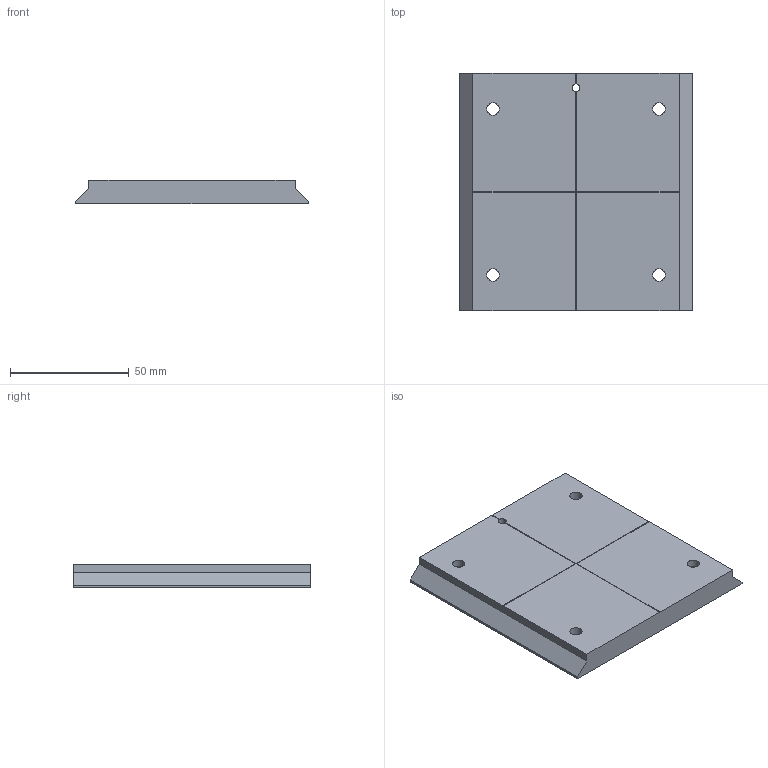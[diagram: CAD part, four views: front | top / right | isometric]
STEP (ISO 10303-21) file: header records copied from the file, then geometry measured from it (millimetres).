
FILE_DESCRIPTION (( 'STEP AP203' ), '1' );
FILE_NAME ('QCS-G100.STEP', '2024-03-20T06:18:48', ( '微软用户' ), ( '微软中国' ), 'SwSTEP 2.0', 'SolidWorks 2018', '' );
FILE_SCHEMA (( 'CONFIG_CONTROL_DESIGN' ));
Length unit declared in the file: millimetre
Products named in the file (1): QCS-G100
Bounding box: 98 x 100 x 10 mm (x, y, z)
Volume: 88696 mm3; surface area: 23763 mm2
Topology: 1 solids, 1 shells, 45 faces, 115 edges, 75 vertices
Faces by surface type: plane 27, cylinder 18
Entity records: 1464 total; most frequent: CARTESIAN_POINT 248, DIRECTION 241, ORIENTED_EDGE 230, EDGE_CURVE 115, AXIS2_PLACEMENT_3D 84, VERTEX_POINT 75, VECTOR 73, LINE 73
